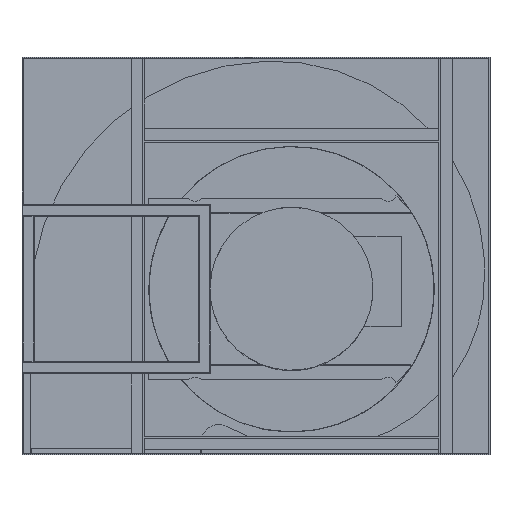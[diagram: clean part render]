
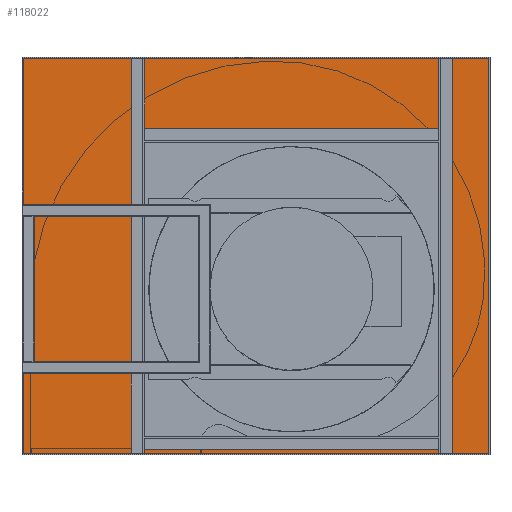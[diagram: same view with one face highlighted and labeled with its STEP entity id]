
A CAD part, top view. The second image highlights one B-rep face of the part: STEP entity #118022.
In plain terms, the highlighted planar face has unit normal (0, 0, 1).
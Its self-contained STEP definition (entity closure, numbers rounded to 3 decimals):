
#3434=FACE_BOUND('',#21400,.T.);
#13929=FACE_OUTER_BOUND('',#21399,.T.);
#21399=EDGE_LOOP('',(#107918,#107919,#107920,#107921));
#21400=EDGE_LOOP('',(#107922,#107923,#107924,#107925,#107926,#107927,#107928,
#107929,#107930,#107931,#107932,#107933));
#35856=LINE('',#190015,#50385);
#35862=LINE('',#190028,#50391);
#35871=LINE('',#190045,#50400);
#35874=LINE('',#190051,#50403);
#35878=LINE('',#190058,#50407);
#35886=LINE('',#190077,#50415);
#35892=LINE('',#190090,#50421);
#35901=LINE('',#190107,#50430);
#35904=LINE('',#190113,#50433);
#35908=LINE('',#190120,#50437);
#35914=LINE('',#190130,#50443);
#35920=LINE('',#190140,#50449);
#35924=LINE('',#190151,#50453);
#35925=LINE('',#190153,#50454);
#35926=LINE('',#190155,#50455);
#35927=LINE('',#190156,#50456);
#50385=VECTOR('',#148327,10.);
#50391=VECTOR('',#148335,10.);
#50400=VECTOR('',#148350,10.);
#50403=VECTOR('',#148355,10.);
#50407=VECTOR('',#148361,10.);
#50415=VECTOR('',#148373,10.);
#50421=VECTOR('',#148381,10.);
#50430=VECTOR('',#148396,10.);
#50433=VECTOR('',#148401,10.);
#50437=VECTOR('',#148407,10.);
#50443=VECTOR('',#148421,10.);
#50449=VECTOR('',#148435,10.);
#50453=VECTOR('',#148445,10.);
#50454=VECTOR('',#148446,10.);
#50455=VECTOR('',#148447,10.);
#50456=VECTOR('',#148448,10.);
#60820=VERTEX_POINT('',#190012);
#60821=VERTEX_POINT('',#190014);
#60826=VERTEX_POINT('',#190025);
#60827=VERTEX_POINT('',#190027);
#60832=VERTEX_POINT('',#190043);
#60833=VERTEX_POINT('',#190048);
#60844=VERTEX_POINT('',#190074);
#60845=VERTEX_POINT('',#190076);
#60850=VERTEX_POINT('',#190087);
#60851=VERTEX_POINT('',#190089);
#60856=VERTEX_POINT('',#190105);
#60857=VERTEX_POINT('',#190110);
#60863=VERTEX_POINT('',#190149);
#60864=VERTEX_POINT('',#190150);
#60865=VERTEX_POINT('',#190152);
#60866=VERTEX_POINT('',#190154);
#76490=EDGE_CURVE('',#60821,#60820,#35856,.T.);
#76496=EDGE_CURVE('',#60827,#60826,#35862,.T.);
#76505=EDGE_CURVE('',#60820,#60832,#35871,.T.);
#76508=EDGE_CURVE('',#60826,#60833,#35874,.T.);
#76512=EDGE_CURVE('',#60832,#60827,#35878,.T.);
#76520=EDGE_CURVE('',#60845,#60844,#35886,.T.);
#76526=EDGE_CURVE('',#60851,#60850,#35892,.T.);
#76535=EDGE_CURVE('',#60844,#60856,#35901,.T.);
#76538=EDGE_CURVE('',#60850,#60857,#35904,.T.);
#76542=EDGE_CURVE('',#60856,#60851,#35908,.T.);
#76548=EDGE_CURVE('',#60833,#60845,#35914,.T.);
#76554=EDGE_CURVE('',#60857,#60821,#35920,.T.);
#76558=EDGE_CURVE('',#60863,#60864,#35924,.T.);
#76559=EDGE_CURVE('',#60864,#60865,#35925,.T.);
#76560=EDGE_CURVE('',#60865,#60866,#35926,.T.);
#76561=EDGE_CURVE('',#60866,#60863,#35927,.T.);
#107918=ORIENTED_EDGE('',*,*,#76558,.T.);
#107919=ORIENTED_EDGE('',*,*,#76559,.T.);
#107920=ORIENTED_EDGE('',*,*,#76560,.T.);
#107921=ORIENTED_EDGE('',*,*,#76561,.T.);
#107922=ORIENTED_EDGE('',*,*,#76548,.T.);
#107923=ORIENTED_EDGE('',*,*,#76520,.T.);
#107924=ORIENTED_EDGE('',*,*,#76535,.T.);
#107925=ORIENTED_EDGE('',*,*,#76542,.T.);
#107926=ORIENTED_EDGE('',*,*,#76526,.T.);
#107927=ORIENTED_EDGE('',*,*,#76538,.T.);
#107928=ORIENTED_EDGE('',*,*,#76554,.T.);
#107929=ORIENTED_EDGE('',*,*,#76490,.T.);
#107930=ORIENTED_EDGE('',*,*,#76505,.T.);
#107931=ORIENTED_EDGE('',*,*,#76512,.T.);
#107932=ORIENTED_EDGE('',*,*,#76496,.T.);
#107933=ORIENTED_EDGE('',*,*,#76508,.T.);
#112747=PLANE('',#123333);
#118022=ADVANCED_FACE('',(#13929,#3434),#112747,.T.);
#123333=AXIS2_PLACEMENT_3D('',#190148,#148443,#148444);
#148327=DIRECTION('',(0.,1.,0.));
#148335=DIRECTION('',(-1.,0.,0.));
#148350=DIRECTION('',(1.,0.,0.));
#148355=DIRECTION('',(0.,1.,0.));
#148361=DIRECTION('',(0.,-1.,0.));
#148373=DIRECTION('',(0.,-1.,0.));
#148381=DIRECTION('',(1.,0.,0.));
#148396=DIRECTION('',(-1.,0.,0.));
#148401=DIRECTION('',(0.,-1.,0.));
#148407=DIRECTION('',(0.,1.,0.));
#148421=DIRECTION('',(-1.,0.,0.));
#148435=DIRECTION('',(1.,0.,0.));
#148443=DIRECTION('center_axis',(0.,0.,
1.));
#148444=DIRECTION('ref_axis',(0.,-1.,0.));
#148445=DIRECTION('',(1.,0.,0.));
#148446=DIRECTION('',(0.,1.,0.));
#148447=DIRECTION('',(-1.,0.,0.));
#148448=DIRECTION('',(0.,-1.,0.));
#190012=CARTESIAN_POINT('',(240.,376.5,2.));
#190014=CARTESIAN_POINT('',(240.,262.,2.));
#190015=CARTESIAN_POINT('',(240.,54.5,2.));
#190025=CARTESIAN_POINT('',(240.,-267.5,2.));
#190027=CARTESIAN_POINT('',(262.,-267.5,2.));
#190028=CARTESIAN_POINT('',(96.5,-267.5,2.));
#190043=CARTESIAN_POINT('',(262.,376.5,2.));
#190045=CARTESIAN_POINT('',(96.5,376.5,2.));
#190048=CARTESIAN_POINT('',(240.,-262.,2.));
#190051=CARTESIAN_POINT('',(240.,54.5,2.));
#190058=CARTESIAN_POINT('',(262.,-106.5,2.));
#190074=CARTESIAN_POINT('',(-240.,-267.5,2.));
#190076=CARTESIAN_POINT('',(-240.,-262.,2.));
#190077=CARTESIAN_POINT('',(-240.,54.5,2.));
#190087=CARTESIAN_POINT('',(-240.,376.5,2.));
#190089=CARTESIAN_POINT('',(-262.,376.5,2.));
#190090=CARTESIAN_POINT('',(-154.5,376.5,2.));
#190105=CARTESIAN_POINT('',(-262.,-267.5,2.));
#190107=CARTESIAN_POINT('',(-154.5,-267.5,2.));
#190110=CARTESIAN_POINT('',(-240.,262.,2.));
#190113=CARTESIAN_POINT('',(-240.,54.5,2.));
#190120=CARTESIAN_POINT('',(-262.,215.5,2.));
#190130=CARTESIAN_POINT('',(-149.,-262.,2.));
#190140=CARTESIAN_POINT('',(91.,262.,2.));
#190148=CARTESIAN_POINT('Origin',(-58.,54.5,2.));
#190149=CARTESIAN_POINT('',(-438.,-268.,2.));
#190150=CARTESIAN_POINT('',(322.,-268.,2.));
#190151=CARTESIAN_POINT('',(-58.,-268.,2.));
#190152=CARTESIAN_POINT('',(322.,377.,2.));
#190153=CARTESIAN_POINT('',(322.,54.5,2.));
#190154=CARTESIAN_POINT('',(-438.,377.,2.));
#190155=CARTESIAN_POINT('',(-58.,377.,2.));
#190156=CARTESIAN_POINT('',(-438.,54.5,2.));
